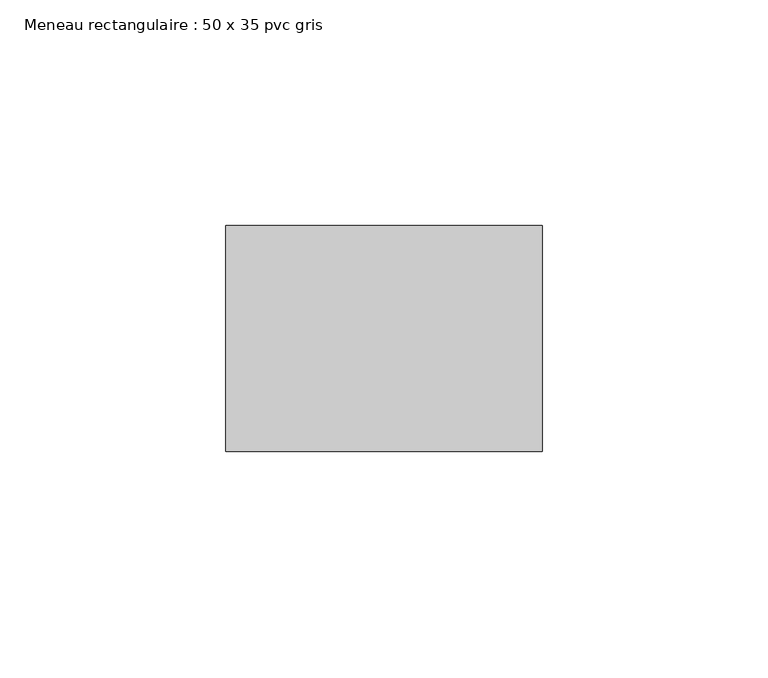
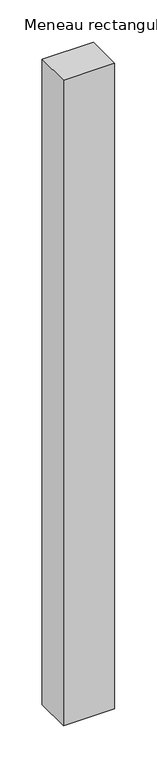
"""IFC4 building model written with IfcOpenShell, lengths in millimetres: member geometry, Meneau rectangulaire : 50 x 35 pvc gris."""

from ifc_helpers import new_model, si_unit, frame, origin, place, context, project, spatial, polyline, outline, extrude, source, transform, mapped, element, save


def meneau_rectangulaire_50_x_35_pvc_gris_c913ff10(model_context):
    return source(origin(), model_context, "Body", "SweptSolid", [
        extrude(outline(polyline([(35.0, 0.0), (35.0, -50.0), (-35.0, -50.0), (-35.0, 0.0), (35.0, 0.0)])), frame((0.0, 0.0, -929.0), z_axis=(0.0, 0.0, 1.0), x_axis=(1.0, 0.0, 0.0)), (0.0, 0.0, 1.0), 929.0),
    ])


if __name__ == "__main__":
    model = new_model("IFC4")
    model_context = context("Model", 3, world=origin())
    ifc_project = project(units=[si_unit("LENGTHUNIT", "METRE", prefix="MILLI")], contexts=[model_context])
    site = spatial("IfcSite", under=ifc_project)
    building = spatial("IfcBuilding", under=site)
    placement = place(None, origin())
    meneau_rectangulaire_50_x_35_pvc_gris_shape = meneau_rectangulaire_50_x_35_pvc_gris_c913ff10(model_context)
    element("IfcMember", 1, ObjectType="Meneau rectangulaire : 50 x 35 pvc gris", at=placement, inside=building, context=model_context, shape_type="MappedRepresentation", body=[
        mapped(meneau_rectangulaire_50_x_35_pvc_gris_shape, transform((0.0, 0.0, 0.0), x_axis=(1.0, 0.0, 0.0), y_axis=(0.0, 1.0, 0.0), z_axis=(0.0, 0.0, 1.0))),
    ])
    save(model, "model.ifc")
